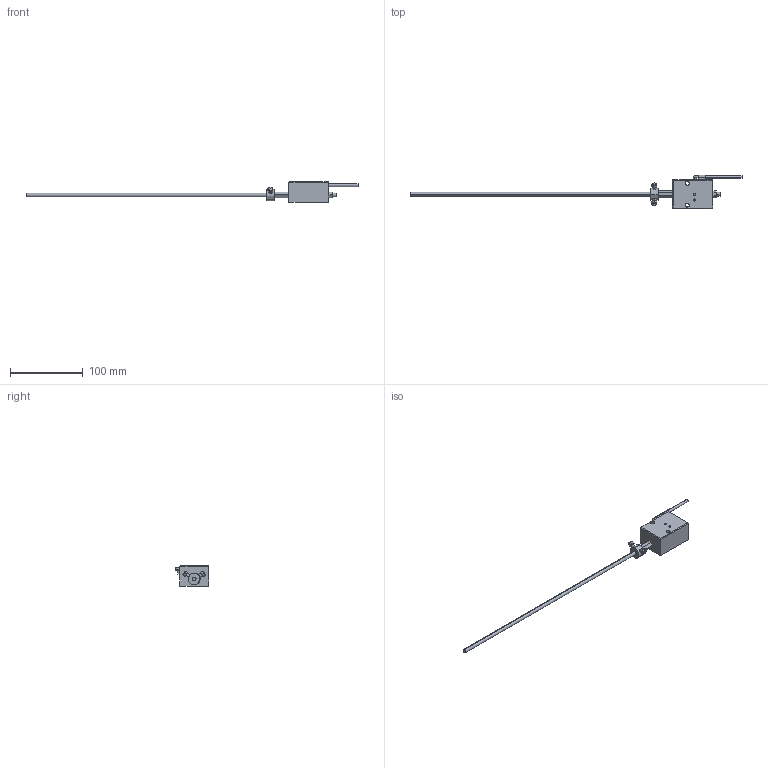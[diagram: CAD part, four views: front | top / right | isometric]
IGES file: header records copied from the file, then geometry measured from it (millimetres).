
Global section: file name: E:\UnigraphicsGraphicData\MISUMI_PRESS-PARTS\IGES\3d_mguan20_04576_r00.igs; native system: NX V5.0; preprocessor: UGS NX IGES V5.0; author: MISUMI; date: 20110105.161439; units: millimetre
Bounding box: 455 x 46 x 28 mm (x, y, z)
Surface area: 18814.4 mm2 (no closed solid volume)
Topology: 0 solids, 0 shells, 107 faces, 717 edges, 717 vertices
Faces by surface type: bspline 107
